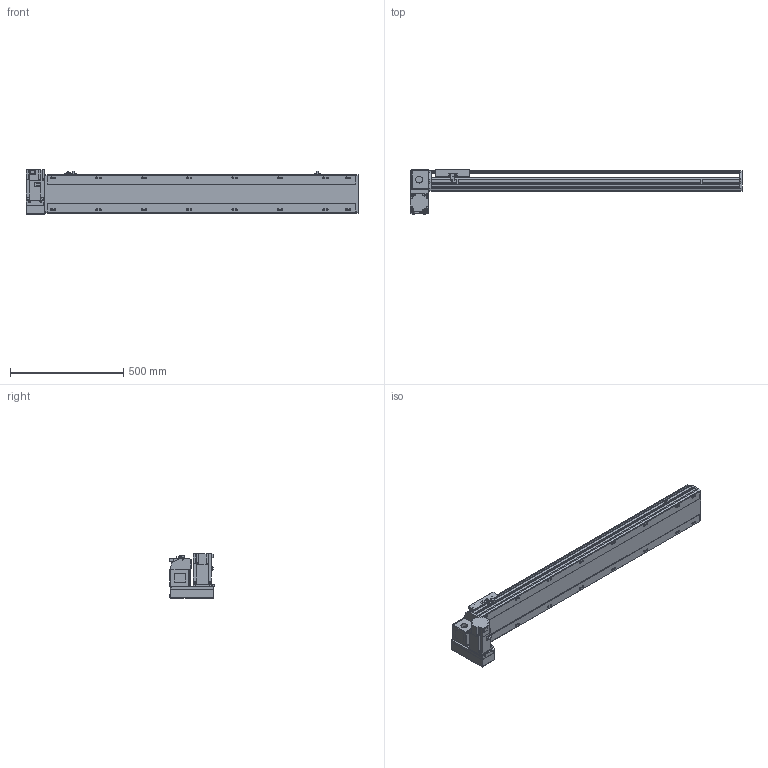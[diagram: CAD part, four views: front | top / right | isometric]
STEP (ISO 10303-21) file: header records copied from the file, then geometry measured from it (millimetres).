
FILE_DESCRIPTION(/* description */ ('STEP AP214'),/* implementation_level */ '2;1');
FILE_NAME(/* name */ 'PBS170-P40-S1100-LD-T75-C1-N(0)',/* time_stamp */ '2022-06-07T09:53:11+02:00',/* author */ ('License CC BY-ND 4.0'),/* organization */ ('CADENAS'),/* preprocessor_version */ 'ST-DEVELOPER v18.102',/* originating_system */ 'PARTsolutions',/* authorisation */ ' ');
FILE_SCHEMA (('AUTOMOTIVE_DESIGN {1 0 10303 214 3 1 1}'));
Length unit declared in the file: millimetre
Products named in the file (7): PBS170-P40-S1100-LD-T75-C1-N(0); PBS170_sensor; PBS170_plant; PBS170_sliser; T75-p1; PBS170T-LD_motors; PBS170-S1100()_body
Assembly tree (8 placements, depth 2):
  PBS170-P40-S1100-LD-T75-C1-N(0)
    PBS170_sensor  x3
    PBS170_plant
    PBS170_sliser
    T75-p1
    PBS170T-LD_motors
    PBS170-S1100()_body
Bounding box: 1463 x 201 x 197.3 mm (x, y, z)
Volume: 11701872.9 mm3; surface area: 1526560.8 mm2
Topology: 8 solids, 8 shells, 1082 faces, 2875 edges, 1874 vertices
Faces by surface type: plane 687, cylinder 339, cone 46, sphere 8, torus 2
Full cylindrical faces by diameter (mm): 3.242 x4, 4 x2, 4.4 x4, 4.5 x6, 4.917 x4, 6 x9, 6.647 x24, 7 x2, 7.5 x4, 8 x8, 8.5 x16, 10 x4, 10.5 x16, 11 x2, 30 x2, 40 x1, 70 x1
Entity records: 31118 total; most frequent: CARTESIAN_POINT 5713, DIRECTION 5300, ORIENTED_EDGE 5028, EDGE_CURVE 2514, AXIS2_PLACEMENT_3D 1837, VERTEX_POINT 1730, LINE 1626, VECTOR 1626
